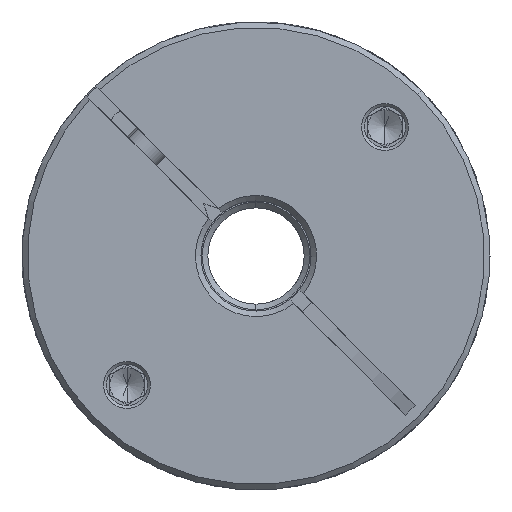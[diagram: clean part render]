
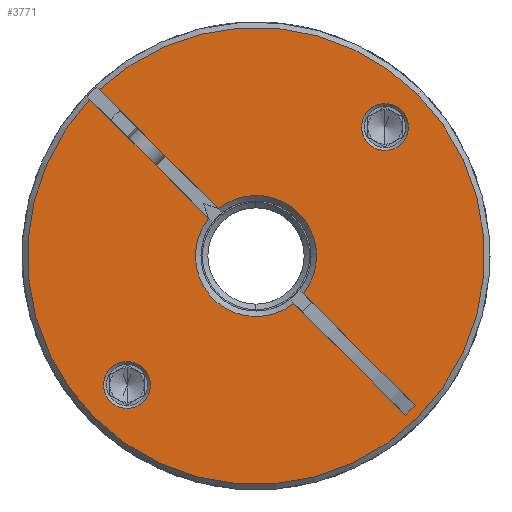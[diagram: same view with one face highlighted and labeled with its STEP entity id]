
A CAD part, front view. The second image highlights one B-rep face of the part: STEP entity #3771.
In plain terms, the highlighted planar face has unit normal (0, -1, 0).
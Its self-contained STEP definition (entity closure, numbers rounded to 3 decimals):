
#229 = AXIS2_PLACEMENT_3D ( 'NONE', #18268, #16555, #18192 ) ;
#320 = ORIENTED_EDGE ( 'NONE', *, *, #19259, .T. ) ;
#375 = CIRCLE ( 'NONE', #19679, 33.2 ) ;
#384 = EDGE_CURVE ( 'NONE', #9151, #3765, #13885, .T. ) ;
#462 = CARTESIAN_POINT ( 'NONE',  ( -2.735, -67.045, 68. ) ) ;
#495 = CARTESIAN_POINT ( 'NONE',  ( -23.878, -67.045, 46.858 ) ) ;
#617 = CARTESIAN_POINT ( 'NONE',  ( -2.028, -67.045, 68.707 ) ) ;
#868 = AXIS2_PLACEMENT_3D ( 'NONE', #21495, #18064, #1221 ) ;
#1221 = DIRECTION ( 'NONE',  ( 0.707, 0., 0.707 ) ) ;
#1904 = ORIENTED_EDGE ( 'NONE', *, *, #3240, .T. ) ;
#2008 = CARTESIAN_POINT ( 'NONE',  ( -2.028, -67.045, 68.707 ) ) ;
#2461 = CARTESIAN_POINT ( 'NONE',  ( -2.735, -67.045, 68. ) ) ;
#2698 = ORIENTED_EDGE ( 'NONE', *, *, #384, .T. ) ;
#2809 = FACE_BOUND ( 'NONE', #16999, .T. ) ;
#2905 = EDGE_CURVE ( 'NONE', #3765, #6233, #3115, .T. ) ;
#2953 = AXIS2_PLACEMENT_3D ( 'NONE', #5082, #9805, #11524 ) ;
#3110 = CIRCLE ( 'NONE', #229, 8.8 ) ;
#3115 = CIRCLE ( 'NONE', #5008, 33.2 ) ;
#3240 = EDGE_CURVE ( 'NONE', #6233, #15791, #6466, .T. ) ;
#3437 = DIRECTION ( 'NONE',  ( 0., 1., 0. ) ) ;
#3443 = PLANE ( 'NONE',  #2953 ) ;
#3551 = CIRCLE ( 'NONE', #15649, 8.8 ) ;
#3765 = VERTEX_POINT ( 'NONE', #13350 ) ;
#3771 = ADVANCED_FACE ( 'NONE', ( #21135, #2809, #13038 ), #3443, .T. ) ;
#4702 = VECTOR ( 'NONE', #11937, 1000. ) ;
#4936 = EDGE_CURVE ( 'NONE', #5427, #15875, #13851, .T. ) ;
#4966 = ORIENTED_EDGE ( 'NONE', *, *, #17963, .T. ) ;
#5008 = AXIS2_PLACEMENT_3D ( 'NONE', #2461, #7505, #14267 ) ;
#5082 = CARTESIAN_POINT ( 'NONE',  ( -2.735, -67.045, 68. ) ) ;
#5343 = EDGE_CURVE ( 'NONE', #12980, #6726, #3551, .T. ) ;
#5427 = VERTEX_POINT ( 'NONE', #13377 ) ;
#6233 = VERTEX_POINT ( 'NONE', #14973 ) ;
#6349 = CARTESIAN_POINT ( 'NONE',  ( 20.402, -67.045, 46.277 ) ) ;
#6466 = LINE ( 'NONE', #2008, #10173 ) ;
#6480 = EDGE_CURVE ( 'NONE', #7635, #9151, #375, .T. ) ;
#6566 = DIRECTION ( 'NONE',  ( 0.707, 0., 0.707 ) ) ;
#6726 = VERTEX_POINT ( 'NONE', #16721 ) ;
#7089 = VERTEX_POINT ( 'NONE', #11791 ) ;
#7150 = CARTESIAN_POINT ( 'NONE',  ( 2.74, -67.045, 61.111 ) ) ;
#7505 = DIRECTION ( 'NONE',  ( 0., -1., 0. ) ) ;
#7635 = VERTEX_POINT ( 'NONE', #12644 ) ;
#8057 = DIRECTION ( 'NONE',  ( 0., -1., 0. ) ) ;
#8091 = CARTESIAN_POINT ( 'NONE',  ( 18.988, -67.045, 44.862 ) ) ;
#8203 = ORIENTED_EDGE ( 'NONE', *, *, #14101, .T. ) ;
#8326 = ORIENTED_EDGE ( 'NONE', *, *, #6480, .T. ) ;
#8400 = CARTESIAN_POINT ( 'NONE',  ( 18.988, -67.045, 44.862 ) ) ;
#8690 = CARTESIAN_POINT ( 'NONE',  ( -3.442, -67.045, 67.293 ) ) ;
#9151 = VERTEX_POINT ( 'NONE', #15397 ) ;
#9269 = DIRECTION ( 'NONE',  ( 0.707, 0., -0.707 ) ) ;
#9575 = AXIS2_PLACEMENT_3D ( 'NONE', #11849, #13549, #20192 ) ;
#9665 = CARTESIAN_POINT ( 'NONE',  ( -2.735, -67.045, 68. ) ) ;
#9672 = ORIENTED_EDGE ( 'NONE', *, *, #11570, .F. ) ;
#9805 = DIRECTION ( 'NONE',  ( 0., -1., 0. ) ) ;
#10173 = VECTOR ( 'NONE', #15424, 1000. ) ;
#10240 = VECTOR ( 'NONE', #10811, 1000. ) ;
#10598 = VERTEX_POINT ( 'NONE', #8400 ) ;
#10811 = DIRECTION ( 'NONE',  ( 0.707, 0., -0.707 ) ) ;
#11391 = DIRECTION ( 'NONE',  ( 0.707, 0., 0.707 ) ) ;
#11434 = DIRECTION ( 'NONE',  ( 0.707, 0., 0.707 ) ) ;
#11456 = ORIENTED_EDGE ( 'NONE', *, *, #4936, .T. ) ;
#11524 = DIRECTION ( 'NONE',  ( 0.707, 0., 0.707 ) ) ;
#11570 = EDGE_CURVE ( 'NONE', #13823, #10598, #21485, .T. ) ;
#11632 = AXIS2_PLACEMENT_3D ( 'NONE', #15166, #3437, #6566 ) ;
#11791 = CARTESIAN_POINT ( 'NONE',  ( -9.624, -67.045, 73.475 ) ) ;
#11843 = VECTOR ( 'NONE', #9269, 1000. ) ;
#11849 = CARTESIAN_POINT ( 'NONE',  ( 16.003, -67.045, 86.738 ) ) ;
#11930 = VECTOR ( 'NONE', #13312, 1000. ) ;
#11937 = DIRECTION ( 'NONE',  ( 0.707, 0., -0.707 ) ) ;
#12052 = EDGE_CURVE ( 'NONE', #6726, #20711, #19647, .T. ) ;
#12188 = DIRECTION ( 'NONE',  ( 0., -1., 0. ) ) ;
#12260 = DIRECTION ( 'NONE',  ( 0.707, 0., 0.707 ) ) ;
#12357 = CIRCLE ( 'NONE', #19149, 8.8 ) ;
#12619 = LINE ( 'NONE', #8690, #4702 ) ;
#12644 = CARTESIAN_POINT ( 'NONE',  ( -26.908, -67.045, 90.758 ) ) ;
#12841 = EDGE_CURVE ( 'NONE', #15791, #12980, #3110, .T. ) ;
#12980 = VERTEX_POINT ( 'NONE', #13126 ) ;
#13038 = FACE_OUTER_BOUND ( 'NONE', #19005, .T. ) ;
#13126 = CARTESIAN_POINT ( 'NONE',  ( 3.487, -67.045, 74.223 ) ) ;
#13312 = DIRECTION ( 'NONE',  ( -0.707, 0., -0.707 ) ) ;
#13350 = CARTESIAN_POINT ( 'NONE',  ( 20.741, -67.045, 91.476 ) ) ;
#13377 = CARTESIAN_POINT ( 'NONE',  ( 18.407, -67.045, 89.142 ) ) ;
#13524 = CARTESIAN_POINT ( 'NONE',  ( -2.735, -67.045, 68. ) ) ;
#13549 = DIRECTION ( 'NONE',  ( 0., 1., 0. ) ) ;
#13599 = EDGE_LOOP ( 'NONE', ( #11456, #18299 ) ) ;
#13644 = CARTESIAN_POINT ( 'NONE',  ( -8.21, -67.045, 74.889 ) ) ;
#13743 = ORIENTED_EDGE ( 'NONE', *, *, #12841, .T. ) ;
#13823 = VERTEX_POINT ( 'NONE', #7150 ) ;
#13851 = CIRCLE ( 'NONE', #868, 3.4 ) ;
#13885 = CIRCLE ( 'NONE', #15965, 33.2 ) ;
#13938 = CARTESIAN_POINT ( 'NONE',  ( 13.599, -67.045, 84.334 ) ) ;
#13960 = ORIENTED_EDGE ( 'NONE', *, *, #5343, .T. ) ;
#13993 = AXIS2_PLACEMENT_3D ( 'NONE', #18358, #18283, #18574 ) ;
#14101 = EDGE_CURVE ( 'NONE', #18303, #18676, #14321, .T. ) ;
#14267 = DIRECTION ( 'NONE',  ( 0.707, 0., 0.707 ) ) ;
#14321 = CIRCLE ( 'NONE', #11632, 3.4 ) ;
#14973 = CARTESIAN_POINT ( 'NONE',  ( -25.493, -67.045, 92.172 ) ) ;
#15166 = CARTESIAN_POINT ( 'NONE',  ( -21.473, -67.045, 49.262 ) ) ;
#15345 = DIRECTION ( 'NONE',  ( 0.707, 0., 0.707 ) ) ;
#15397 = CARTESIAN_POINT ( 'NONE',  ( -26.211, -67.045, 44.524 ) ) ;
#15424 = DIRECTION ( 'NONE',  ( 0.707, 0., -0.707 ) ) ;
#15649 = AXIS2_PLACEMENT_3D ( 'NONE', #13524, #20312, #15345 ) ;
#15729 = ORIENTED_EDGE ( 'NONE', *, *, #2905, .T. ) ;
#15791 = VERTEX_POINT ( 'NONE', #13644 ) ;
#15875 = VERTEX_POINT ( 'NONE', #13938 ) ;
#15965 = AXIS2_PLACEMENT_3D ( 'NONE', #9665, #8057, #11391 ) ;
#16274 = EDGE_CURVE ( 'NONE', #20711, #10598, #21070, .T. ) ;
#16555 = DIRECTION ( 'NONE',  ( 0., 1., 0. ) ) ;
#16721 = CARTESIAN_POINT ( 'NONE',  ( 4.154, -67.045, 62.525 ) ) ;
#16777 = CARTESIAN_POINT ( 'NONE',  ( -2.735, -67.045, 68. ) ) ;
#16999 = EDGE_LOOP ( 'NONE', ( #8203, #4966 ) ) ;
#17516 = EDGE_CURVE ( 'NONE', #15875, #5427, #19220, .T. ) ;
#17623 = CARTESIAN_POINT ( 'NONE',  ( -3.442, -67.045, 67.293 ) ) ;
#17963 = EDGE_CURVE ( 'NONE', #18676, #18303, #20271, .T. ) ;
#18064 = DIRECTION ( 'NONE',  ( 0., 1., 0. ) ) ;
#18192 = DIRECTION ( 'NONE',  ( 0.707, 0., 0.707 ) ) ;
#18268 = CARTESIAN_POINT ( 'NONE',  ( -2.735, -67.045, 68. ) ) ;
#18283 = DIRECTION ( 'NONE',  ( 0., 1., 0. ) ) ;
#18299 = ORIENTED_EDGE ( 'NONE', *, *, #17516, .T. ) ;
#18303 = VERTEX_POINT ( 'NONE', #19095 ) ;
#18358 = CARTESIAN_POINT ( 'NONE',  ( -21.473, -67.045, 49.262 ) ) ;
#18574 = DIRECTION ( 'NONE',  ( 0.707, 0., 0.707 ) ) ;
#18676 = VERTEX_POINT ( 'NONE', #495 ) ;
#19005 = EDGE_LOOP ( 'NONE', ( #20861, #8326, #2698, #15729, #1904, #13743, #13960, #21500, #19664, #9672, #320 ) ) ;
#19095 = CARTESIAN_POINT ( 'NONE',  ( -19.069, -67.045, 51.666 ) ) ;
#19149 = AXIS2_PLACEMENT_3D ( 'NONE', #16777, #21413, #11434 ) ;
#19220 = CIRCLE ( 'NONE', #9575, 3.4 ) ;
#19259 = EDGE_CURVE ( 'NONE', #13823, #7089, #12357, .T. ) ;
#19416 = EDGE_CURVE ( 'NONE', #7635, #7089, #12619, .T. ) ;
#19647 = LINE ( 'NONE', #617, #10240 ) ;
#19664 = ORIENTED_EDGE ( 'NONE', *, *, #16274, .T. ) ;
#19679 = AXIS2_PLACEMENT_3D ( 'NONE', #462, #12188, #12260 ) ;
#20192 = DIRECTION ( 'NONE',  ( 0.707, 0., 0.707 ) ) ;
#20271 = CIRCLE ( 'NONE', #13993, 3.4 ) ;
#20312 = DIRECTION ( 'NONE',  ( 0., 1., 0. ) ) ;
#20711 = VERTEX_POINT ( 'NONE', #6349 ) ;
#20861 = ORIENTED_EDGE ( 'NONE', *, *, #19416, .F. ) ;
#21070 = LINE ( 'NONE', #8091, #11930 ) ;
#21135 = FACE_BOUND ( 'NONE', #13599, .T. ) ;
#21413 = DIRECTION ( 'NONE',  ( 0., 1., 0. ) ) ;
#21485 = LINE ( 'NONE', #17623, #11843 ) ;
#21495 = CARTESIAN_POINT ( 'NONE',  ( 16.003, -67.045, 86.738 ) ) ;
#21500 = ORIENTED_EDGE ( 'NONE', *, *, #12052, .T. ) ;
